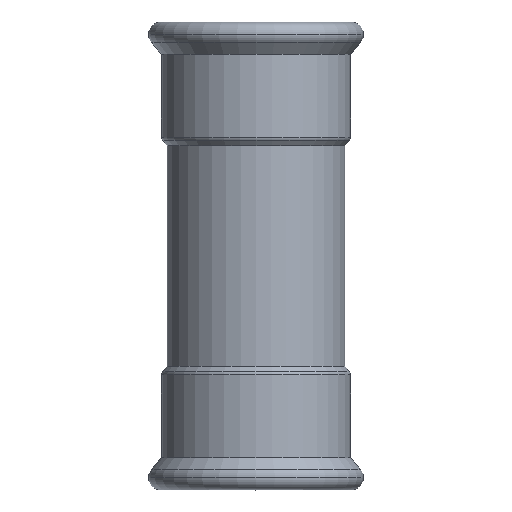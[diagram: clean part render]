
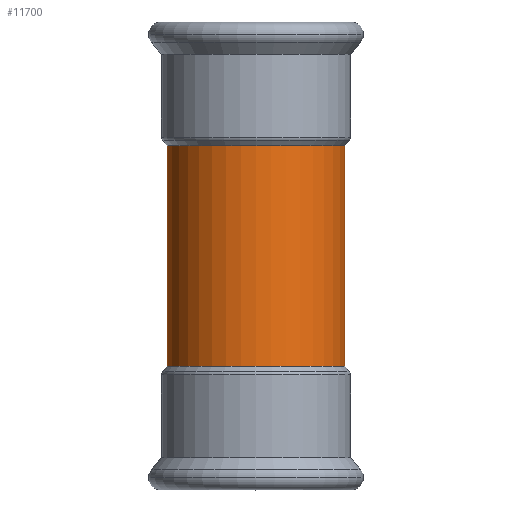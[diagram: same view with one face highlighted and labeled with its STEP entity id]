
A CAD part, top view. The second image highlights one B-rep face of the part: STEP entity #11700.
In plain terms, the highlighted cylindrical face has radius 27 mm (diameter 54 mm), a partial arc.
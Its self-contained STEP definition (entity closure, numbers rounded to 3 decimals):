
#4160=CARTESIAN_POINT('',(-404.306,2.173,
-33.5));
#4170=DIRECTION('',(0.,0.,-1.));
#4180=DIRECTION('',(1.,0.,0.));
#4190=AXIS2_PLACEMENT_3D('',#4160,#4170,#4180);
#4200=CYLINDRICAL_SURFACE('',#4190,27.);
#8490=CARTESIAN_POINT('',(-431.306,2.173,
-33.5));
#8500=VERTEX_POINT('',#8490);
#8680=CARTESIAN_POINT('',(-377.306,2.173,
-33.5));
#8690=VERTEX_POINT('',#8680);
#8720=CARTESIAN_POINT('',(-404.306,2.173,
-33.5));
#8730=DIRECTION('',(0.,0.,-1.));
#8740=DIRECTION('',(1.,0.,0.));
#8750=AXIS2_PLACEMENT_3D('',#8720,#8730,#8740);
#8760=CIRCLE('',#8750,27.);
#11430=CARTESIAN_POINT('',(-377.306,2.173,
-33.5));
#11440=DIRECTION('',(0.,0.,-1.));
#11450=VECTOR('',#11440,1.);
#11460=LINE('',#11430,#11450);
#11470=CARTESIAN_POINT('',(-377.306,2.173,
33.5));
#11480=VERTEX_POINT('',#11470);
#11490=EDGE_CURVE('',#11480,#8690,#11460,.T.);
#11500=ORIENTED_EDGE('',*,*,#11490,.F.);
#11510=EDGE_CURVE('',#8690,#8500,#8760,.T.);
#11520=ORIENTED_EDGE('',*,*,#11510,.F.);
#11530=CARTESIAN_POINT('',(-431.306,2.173,
-33.5));
#11540=DIRECTION('',(0.,0.,-1.));
#11550=VECTOR('',#11540,1.);
#11560=LINE('',#11530,#11550);
#11570=CARTESIAN_POINT('',(-431.306,2.173,
33.5));
#11580=VERTEX_POINT('',#11570);
#11590=EDGE_CURVE('',#11580,#8500,#11560,.T.);
#11600=ORIENTED_EDGE('',*,*,#11590,.T.);
#11610=CARTESIAN_POINT('',(-404.306,2.173,
33.5));
#11620=DIRECTION('',(0.,0.,1.));
#11630=DIRECTION('',(1.,0.,0.));
#11640=AXIS2_PLACEMENT_3D('',#11610,#11620,#11630);
#11650=CIRCLE('',#11640,27.);
#11660=EDGE_CURVE('',#11580,#11480,#11650,.T.);
#11670=ORIENTED_EDGE('',*,*,#11660,.F.);
#11680=EDGE_LOOP('',(#11670,#11600,#11520,#11500));
#11690=FACE_OUTER_BOUND('',#11680,.T.);
#11700=ADVANCED_FACE('',(#11690),#4200,.T.);
